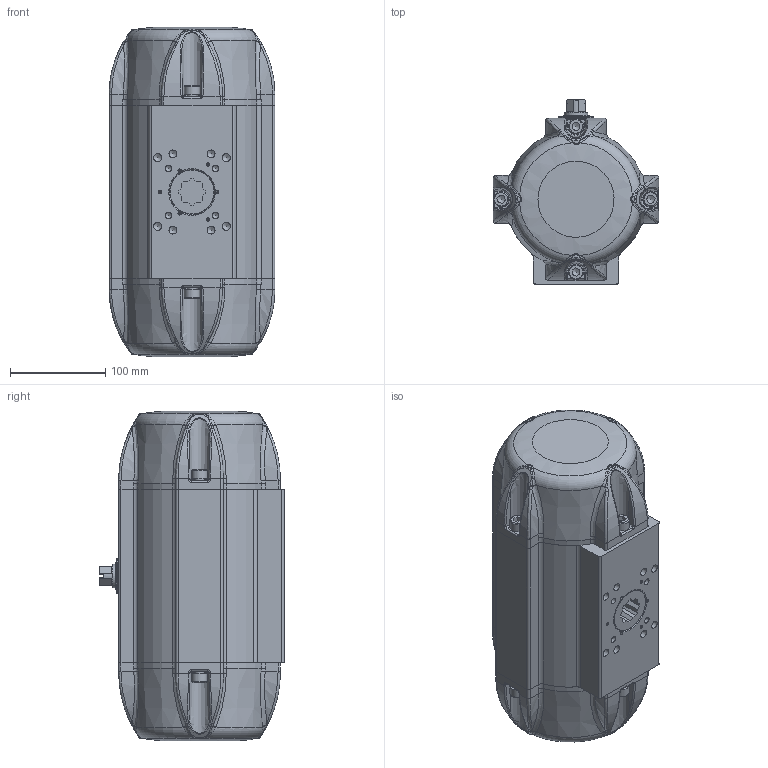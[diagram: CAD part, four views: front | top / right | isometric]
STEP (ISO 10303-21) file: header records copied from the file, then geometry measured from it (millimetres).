
FILE_DESCRIPTION((''),'2;1');
FILE_NAME('C:\Users\war\Desktop\SAF 30 BR16.stp','2016-10-06T16:18:06',('war'),(''),'Autodesk Inventor 2013','Autodesk Inventor 2013','');
FILE_SCHEMA(('AUTOMOTIVE_DESIGN { 1 0 10303 214 1 1 1 1 }'));
Length unit declared in the file: millimetre
Products named in the file (1): ENG-030692_Shrinkwrap_1
Bounding box: 174 x 193.8 x 346 mm (x, y, z)
Surface area: 308168.4 mm2 (no closed solid volume)
Topology: 0 solids, 32 shells, 645 faces, 2262 edges, 1603 vertices
Faces by surface type: bspline 214, cylinder 175, plane 163, cone 52, torus 41
Full cylindrical faces by diameter (mm): 2.5 x4, 4.134 x8, 4.917 x1, 6.647 x4, 8.376 x8, 10 x8, 11.445 x2, 16 x8, 20 x1, 24.8 x1, 25 x1, 36 x2
Entity records: 31684 total; most frequent: CARTESIAN_POINT 13723, ORIENTED_EDGE 3476, DIRECTION 3103, EDGE_CURVE 2126, VERTEX_POINT 1562, AXIS2_PLACEMENT_3D 1256, CIRCLE 792, EDGE_LOOP 791
